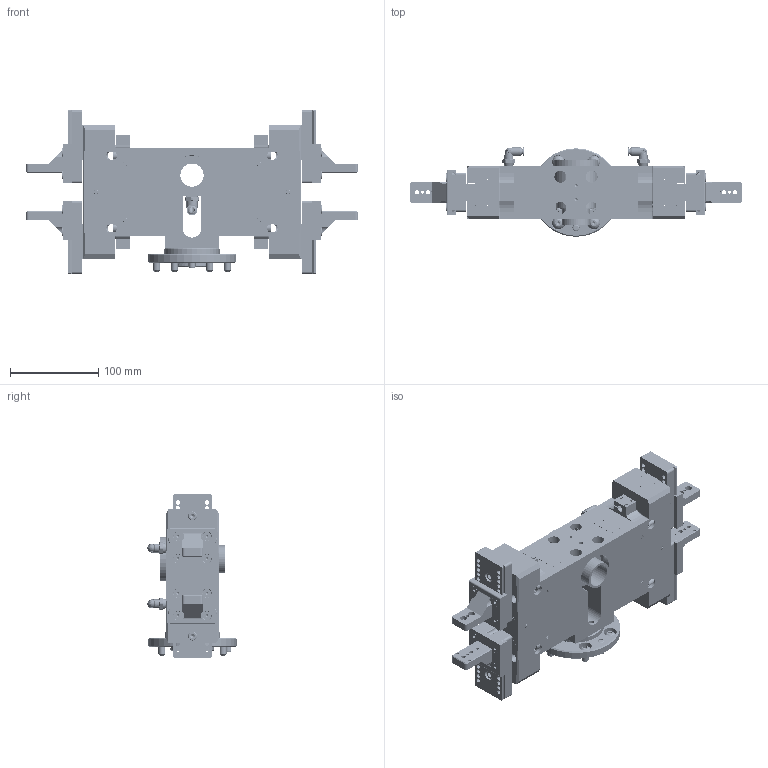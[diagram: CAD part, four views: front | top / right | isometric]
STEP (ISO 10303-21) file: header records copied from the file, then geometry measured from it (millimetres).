
FILE_DESCRIPTION (( 'STEP AP203' ), '1' );
FILE_NAME ('5012619_REV-A - SHAFT FINGERS.STEP', '2024-11-07T18:38:06', ( '' ), ( '' ), 'SwSTEP 2.0', 'SolidWorks 2019', '' );
FILE_SCHEMA (( 'CONFIG_CONTROL_DESIGN' ));
Length unit declared in the file: inch
Products named in the file (28): 5009110_Default Configuration; 5012709_Default Configuration; 5012467_03 - SHAFT FINGERS - BLANK- GRIPPER FLOATING; 5012630_Default Configuration; 5010633_Default Configuration; Copy of SCHUNK-5503506 Halter fuer NHS KL03^5012457; 5010632_Default Configuration; 5001641_51495K218; Copy of SCHUNK-9905503 Typenschild 11x43x0.3^5012457; 5012240; M6x1.0 SHCS_SHCS M6-1.0 x 22; 5012457_02 - ACTUATOR OPEN; Copy of SCHUNK-9949504 limit stop for MMS-P^5012457; M6x1.0 SHCS_SHCS M6-1.0 x 60; 5005514; 5012615; M5x0.8 FHCS_M5x0.8 FHCS x 20mm; Copy of SCHUNK-1459020 finger JGP-P 125-1^5012457; Copy of SCHUNK-5524096 Deckel-PGN-plus-P 125^5012457; M8X1.25 BHCS_BHCS M8x1.25 X 14mm; M8 DOWEL PIN_M8 DOWEL PIN x 16mm; Copy of SCHUNK-5524306 Abdeckblech-PGN-plus-P 125^5012457; Copy of SCHUNK-1459019 Gehaeuse-JGP-P 125-GKS^5012457; M6X1.0 SET SCREW_M6x.1.0 SET SCREW x 6mm; M6 DOWEL PIN_M6 DOWEL x 14mm; 5012619_REV-A - SHAFT FINGERS
Assembly tree (88 placements, depth 4):
  5012619_REV-A - SHAFT FINGERS
    5012615
    5012467_03 - SHAFT FINGERS - BLANK- GRIPPER FLOATING
      5012457_02 - ACTUATOR OPEN
        Copy of SCHUNK-1459019 Gehaeuse-JGP-P 125-GKS^5012457
        Copy of SCHUNK-5524306 Abdeckblech-PGN-plus-P 125^5012457
        Copy of SCHUNK-5524096 Deckel-PGN-plus-P 125^5012457
        Copy of SCHUNK-9949504 limit stop for MMS-P^5012457
        Copy of SCHUNK-9905503 Typenschild 11x43x0.3^5012457
        Copy of SCHUNK-5503506 Halter fuer NHS KL03^5012457  x2
        Copy of SCHUNK-1459020 finger JGP-P 125-1^5012457  x2
      5012630_Default Configuration  x2
      M6x1.0 SHCS_SHCS M6-1.0 x 22  x4
      5005514  x2
      5012709_Default Configuration  x2
      M5x0.8 FHCS_M5x0.8 FHCS x 20mm  x8
    5012467_03 - SHAFT FINGERS - BLANK- GRIPPER FLOATING
      5012457_02 - ACTUATOR OPEN
        Copy of SCHUNK-1459019 Gehaeuse-JGP-P 125-GKS^5012457
        Copy of SCHUNK-5524306 Abdeckblech-PGN-plus-P 125^5012457
        Copy of SCHUNK-5524096 Deckel-PGN-plus-P 125^5012457
        Copy of SCHUNK-9949504 limit stop for MMS-P^5012457
        Copy of SCHUNK-9905503 Typenschild 11x43x0.3^5012457
        Copy of SCHUNK-5503506 Halter fuer NHS KL03^5012457  x2
        Copy of SCHUNK-1459020 finger JGP-P 125-1^5012457  x2
      5012630_Default Configuration  x2
      M6x1.0 SHCS_SHCS M6-1.0 x 22  x4
      5005514  x2
      5012709_Default Configuration  x2
      M5x0.8 FHCS_M5x0.8 FHCS x 20mm  x8
    5001641_51495K218
    5009110_Default Configuration
    M6x1.0 SHCS_SHCS M6-1.0 x 60  x12
    M6 DOWEL PIN_M6 DOWEL x 14mm
    M6X1.0 SET SCREW_M6x.1.0 SET SCREW x 6mm  x2
    5012240
    M8X1.25 BHCS_BHCS M8x1.25 X 14mm  x6
    M8 DOWEL PIN_M8 DOWEL PIN x 16mm
    5010632_Default Configuration  x2
    5010633_Default Configuration  x2
Bounding box: 375.42 x 101 x 185.1 mm (x, y, z)
Volume: 1960116.2 mm3; surface area: 492834.7 mm2
Topology: 117 solids, 117 shells, 5898 faces, 14727 edges, 9309 vertices
Faces by surface type: plane 2726, cylinder 1611, cone 942, bspline 504, torus 96, sphere 19
Entity records: 83463 total; most frequent: CARTESIAN_POINT 24996, ORIENTED_EDGE 11206, DIRECTION 10972, EDGE_CURVE 5603, AXIS2_PLACEMENT_3D 3870, VERTEX_POINT 3624, VECTOR 3232, LINE 3232
